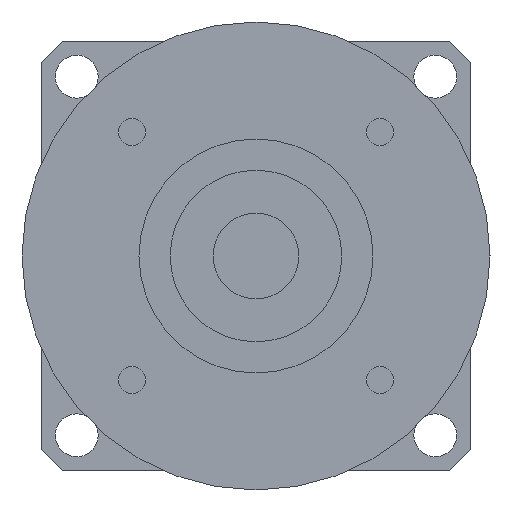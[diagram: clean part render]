
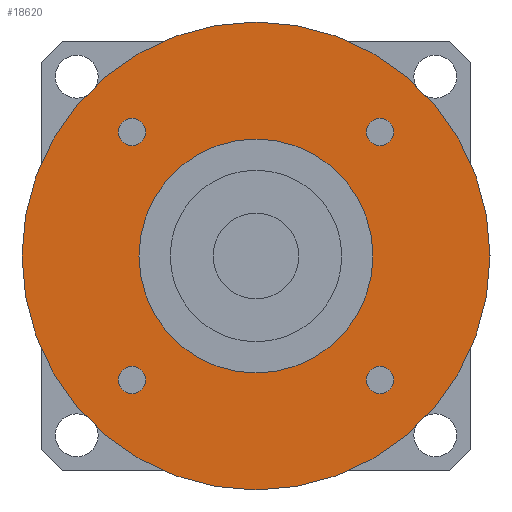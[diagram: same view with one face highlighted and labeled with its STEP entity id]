
A CAD part, left-side view. The second image highlights one B-rep face of the part: STEP entity #18620.
In plain terms, the highlighted planar face has unit normal (-1, 0, 0) as drawn and (0, 0, -1) by its records, which use the part's own axes.
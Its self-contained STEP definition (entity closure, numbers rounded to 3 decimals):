
#11050=CARTESIAN_POINT('',(0.,0.,
-62.));
#11060=DIRECTION('',(0.,0.,1.));
#11070=DIRECTION('',(0.,-1.,0.));
#11080=AXIS2_PLACEMENT_3D('',#11050,#11060,#11070);
#11090=CIRCLE('',#11080,15.);
#11100=CARTESIAN_POINT('',(0.,-15.,-62.));
#11110=VERTEX_POINT('',#11100);
#11120=CARTESIAN_POINT('',(15.,0.,-62.));
#11130=VERTEX_POINT('',#11120);
#11140=EDGE_CURVE('',#11110,#11130,#11090,.T.);
#11370=CARTESIAN_POINT('',(-15.,0.,-62.));
#11380=VERTEX_POINT('',#11370);
#11410=EDGE_CURVE('',#11380,#11110,#11090,.T.);
#12740=CARTESIAN_POINT('',(-14.16,-15.91,-62.));
#12750=VERTEX_POINT('',#12740);
#12830=CARTESIAN_POINT('',(-17.66,-15.91,-62.));
#12840=VERTEX_POINT('',#12830);
#12870=CARTESIAN_POINT('',(-15.91,-15.91,-62.));
#12880=DIRECTION('',(0.,0.,-1.));
#12890=DIRECTION('',(0.,-1.,0.));
#12900=AXIS2_PLACEMENT_3D('',#12870,#12880,#12890);
#12910=CIRCLE('',#12900,1.75);
#12920=CARTESIAN_POINT('',(-15.91,-17.66,-62.));
#12930=VERTEX_POINT('',#12920);
#12940=EDGE_CURVE('',#12930,#12840,#12910,.T.);
#12960=EDGE_CURVE('',#12750,#12930,#12910,.T.);
#17550=CARTESIAN_POINT('',(30.,0.,-62.));
#17560=VERTEX_POINT('',#17550);
#17590=CARTESIAN_POINT('',(0.,0.,
-62.));
#17600=DIRECTION('',(0.,0.,1.));
#17610=DIRECTION('',(0.,-1.,0.));
#17620=AXIS2_PLACEMENT_3D('',#17590,#17600,#17610);
#17630=CIRCLE('',#17620,30.);
#17640=CARTESIAN_POINT('',(0.,-30.,-62.));
#17650=VERTEX_POINT('',#17640);
#17660=EDGE_CURVE('',#17650,#17560,#17630,.T.);
#17680=CARTESIAN_POINT('',(-30.,0.,-62.));
#17690=VERTEX_POINT('',#17680);
#17700=EDGE_CURVE('',#17690,#17650,#17630,.T.);
#17820=CARTESIAN_POINT('',(0.,0.,
-62.));
#17830=DIRECTION('',(0.,0.,1.));
#17840=DIRECTION('',(-1.,0.,0.));
#17850=AXIS2_PLACEMENT_3D('',#17820,#17830,#17840);
#17860=PLANE('',#17850);
#17870=CARTESIAN_POINT('',(15.91,-15.91,-62.));
#17880=DIRECTION('',(0.,0.,-1.));
#17890=DIRECTION('',(1.,0.,0.));
#17900=AXIS2_PLACEMENT_3D('',#17870,#17880,#17890);
#17910=CIRCLE('',#17900,1.75);
#17920=CARTESIAN_POINT('',(17.66,-15.91,-62.));
#17930=VERTEX_POINT('',#17920);
#17940=CARTESIAN_POINT('',(15.91,-17.66,-62.));
#17950=VERTEX_POINT('',#17940);
#17960=EDGE_CURVE('',#17930,#17950,#17910,.T.);
#17970=ORIENTED_EDGE('',*,*,#17960,.F.);
#17980=CARTESIAN_POINT('',(15.91,-14.16,-62.));
#17990=VERTEX_POINT('',#17980);
#18000=EDGE_CURVE('',#17950,#17990,#17910,.T.);
#18010=ORIENTED_EDGE('',*,*,#18000,.F.);
#18020=EDGE_CURVE('',#17990,#17930,#17910,.T.);
#18030=ORIENTED_EDGE('',*,*,#18020,.F.);
#18040=EDGE_LOOP('',(#18030,#18010,#17970));
#18050=FACE_BOUND('',#18040,.T.);
#18060=CARTESIAN_POINT('',(15.91,15.91,-62.));
#18070=DIRECTION('',(0.,0.,-1.));
#18080=DIRECTION('',(0.,1.,0.));
#18090=AXIS2_PLACEMENT_3D('',#18060,#18070,#18080);
#18100=CIRCLE('',#18090,1.75);
#18110=CARTESIAN_POINT('',(15.91,17.66,-62.));
#18120=VERTEX_POINT('',#18110);
#18130=CARTESIAN_POINT('',(17.66,15.91,-62.));
#18140=VERTEX_POINT('',#18130);
#18150=EDGE_CURVE('',#18120,#18140,#18100,.T.);
#18160=ORIENTED_EDGE('',*,*,#18150,.F.);
#18170=CARTESIAN_POINT('',(14.16,15.91,-62.));
#18180=VERTEX_POINT('',#18170);
#18190=EDGE_CURVE('',#18140,#18180,#18100,.T.);
#18200=ORIENTED_EDGE('',*,*,#18190,.F.);
#18210=EDGE_CURVE('',#18180,#18120,#18100,.T.);
#18220=ORIENTED_EDGE('',*,*,#18210,.F.);
#18230=EDGE_LOOP('',(#18220,#18200,#18160));
#18240=FACE_BOUND('',#18230,.T.);
#18250=CARTESIAN_POINT('',(-15.91,15.91,-62.));
#18260=DIRECTION('',(0.,0.,-1.));
#18270=DIRECTION('',(-1.,0.,0.));
#18280=AXIS2_PLACEMENT_3D('',#18250,#18260,#18270);
#18290=CIRCLE('',#18280,1.75);
#18300=CARTESIAN_POINT('',(-17.66,15.91,-62.));
#18310=VERTEX_POINT('',#18300);
#18320=CARTESIAN_POINT('',(-15.91,17.66,-62.));
#18330=VERTEX_POINT('',#18320);
#18340=EDGE_CURVE('',#18310,#18330,#18290,.T.);
#18350=ORIENTED_EDGE('',*,*,#18340,.F.);
#18360=CARTESIAN_POINT('',(-15.91,14.16,-62.));
#18370=VERTEX_POINT('',#18360);
#18380=EDGE_CURVE('',#18330,#18370,#18290,.T.);
#18390=ORIENTED_EDGE('',*,*,#18380,.F.);
#18400=EDGE_CURVE('',#18370,#18310,#18290,.T.);
#18410=ORIENTED_EDGE('',*,*,#18400,.F.);
#18420=EDGE_LOOP('',(#18410,#18390,#18350));
#18430=FACE_BOUND('',#18420,.T.);
#18440=ORIENTED_EDGE('',*,*,#12940,.F.);
#18450=EDGE_CURVE('',#12840,#12750,#12910,.T.);
#18460=ORIENTED_EDGE('',*,*,#18450,.F.);
#18470=ORIENTED_EDGE('',*,*,#12960,.F.);
#18480=EDGE_LOOP('',(#18470,#18460,#18440));
#18490=FACE_BOUND('',#18480,.T.);
#18500=ORIENTED_EDGE('',*,*,#17660,.F.);
#18510=EDGE_CURVE('',#17560,#17690,#17630,.T.);
#18520=ORIENTED_EDGE('',*,*,#18510,.F.);
#18530=ORIENTED_EDGE('',*,*,#17700,.F.);
#18540=EDGE_LOOP('',(#18530,#18520,#18500));
#18550=FACE_OUTER_BOUND('',#18540,.T.);
#18560=EDGE_CURVE('',#11130,#11380,#11090,.T.);
#18570=ORIENTED_EDGE('',*,*,#18560,.T.);
#18580=ORIENTED_EDGE('',*,*,#11140,.T.);
#18590=ORIENTED_EDGE('',*,*,#11410,.T.);
#18600=EDGE_LOOP('',(#18590,#18580,#18570));
#18610=FACE_BOUND('',#18600,.T.);
#18620=ADVANCED_FACE('',(#18050,#18240,#18430,#18490,#18550,#18610),
#17860,.F.);
